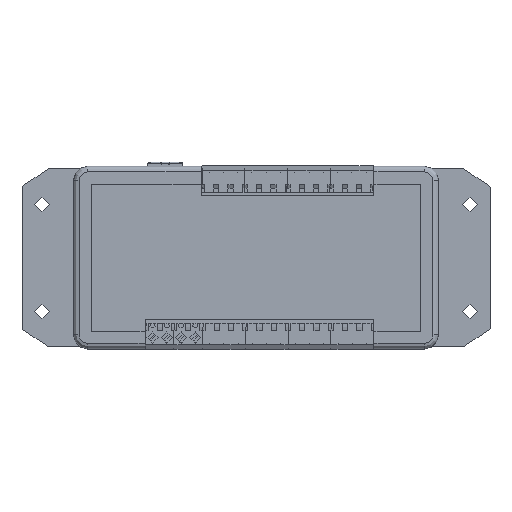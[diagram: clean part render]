
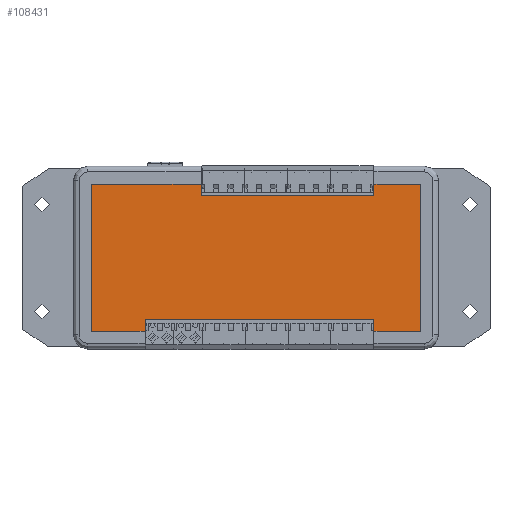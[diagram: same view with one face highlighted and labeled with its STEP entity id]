
A CAD part, top view. The second image highlights one B-rep face of the part: STEP entity #108431.
In plain terms, the highlighted planar face has unit normal (0, 0, 1) as drawn and (0, 0, -1) by its records, which use the part's own axes.
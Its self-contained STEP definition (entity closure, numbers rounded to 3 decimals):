
#525 = VERTEX_POINT ( 'NONE', #110606 ) ;
#2286 = CARTESIAN_POINT ( 'NONE',  ( 0., -22., 1. ) ) ;
#2564 = AXIS2_PLACEMENT_3D ( 'NONE', #78032, #97956, #38532 ) ;
#3573 = LINE ( 'NONE', #89883, #106139 ) ;
#4570 = VECTOR ( 'NONE', #13887, 1000. ) ;
#5338 = VERTEX_POINT ( 'NONE', #71800 ) ;
#8857 = VERTEX_POINT ( 'NONE', #38760 ) ;
#9164 = VERTEX_POINT ( 'NONE', #62509 ) ;
#11710 = ORIENTED_EDGE ( 'NONE', *, *, #88832, .T. ) ;
#12069 = VERTEX_POINT ( 'NONE', #102774 ) ;
#13540 = VERTEX_POINT ( 'NONE', #76278 ) ;
#13887 = DIRECTION ( 'NONE',  ( -1., 0., 0. ) ) ;
#17136 = VECTOR ( 'NONE', #29446, 1000. ) ;
#23528 = ORIENTED_EDGE ( 'NONE', *, *, #106310, .T. ) ;
#23560 = LINE ( 'NONE', #36191, #96599 ) ;
#24886 = EDGE_CURVE ( 'NONE', #5338, #36080, #107745, .T. ) ;
#25667 = CARTESIAN_POINT ( 'NONE',  ( -39.5, 22., 1. ) ) ;
#29446 = DIRECTION ( 'NONE',  ( 1., 0., 0. ) ) ;
#30875 = CARTESIAN_POINT ( 'NONE',  ( -39.5, 0., 1. ) ) ;
#31686 = CARTESIAN_POINT ( 'NONE',  ( 42., 26.125, 1. ) ) ;
#31915 = CARTESIAN_POINT ( 'NONE',  ( -58.625, 26.125, 1. ) ) ;
#32350 = CARTESIAN_POINT ( 'NONE',  ( -58.625, -26.125, 1. ) ) ;
#32694 = ORIENTED_EDGE ( 'NONE', *, *, #89645, .T. ) ;
#35889 = VECTOR ( 'NONE', #106956, 1000. ) ;
#36080 = VERTEX_POINT ( 'NONE', #115664 ) ;
#36168 = CARTESIAN_POINT ( 'NONE',  ( 58.625, 26.125, 1. ) ) ;
#36191 = CARTESIAN_POINT ( 'NONE',  ( 42., 0., 1. ) ) ;
#38532 = DIRECTION ( 'NONE',  ( 1., 0., 0. ) ) ;
#38760 = CARTESIAN_POINT ( 'NONE',  ( 42., 22., 1. ) ) ;
#39157 = EDGE_CURVE ( 'NONE', #119321, #8857, #90209, .T. ) ;
#40401 = DIRECTION ( 'NONE',  ( 0., 1., 0. ) ) ;
#40874 = DIRECTION ( 'NONE',  ( 0., -1., 0. ) ) ;
#41292 = CARTESIAN_POINT ( 'NONE',  ( -19.5, 0., 1. ) ) ;
#42666 = LINE ( 'NONE', #31915, #69120 ) ;
#46120 = VECTOR ( 'NONE', #40874, 1000. ) ;
#47745 = VERTEX_POINT ( 'NONE', #31686 ) ;
#47774 = CARTESIAN_POINT ( 'NONE',  ( -58.625, 26.125, 1. ) ) ;
#51313 = DIRECTION ( 'NONE',  ( 0., -1., 0. ) ) ;
#52323 = DIRECTION ( 'NONE',  ( 1., 0., 0. ) ) ;
#54626 = EDGE_CURVE ( 'NONE', #9164, #55684, #107166, .T. ) ;
#55641 = ORIENTED_EDGE ( 'NONE', *, *, #54626, .T. ) ;
#55662 = LINE ( 'NONE', #93509, #79004 ) ;
#55684 = VERTEX_POINT ( 'NONE', #32350 ) ;
#57344 = VECTOR ( 'NONE', #51313, 1000. ) ;
#57503 = CARTESIAN_POINT ( 'NONE',  ( -58.625, 26.125, 1. ) ) ;
#62509 = CARTESIAN_POINT ( 'NONE',  ( -19.5, -26.125, 1. ) ) ;
#63029 = ORIENTED_EDGE ( 'NONE', *, *, #122847, .T. ) ;
#64773 = LINE ( 'NONE', #2286, #114489 ) ;
#68145 = CARTESIAN_POINT ( 'NONE',  ( 42., -22., 1. ) ) ;
#69120 = VECTOR ( 'NONE', #111380, 1000. ) ;
#71800 = CARTESIAN_POINT ( 'NONE',  ( 58.625, 26.125, 1. ) ) ;
#73053 = EDGE_CURVE ( 'NONE', #8857, #47745, #23560, .T. ) ;
#76278 = CARTESIAN_POINT ( 'NONE',  ( -19.5, -22., 1. ) ) ;
#78032 = CARTESIAN_POINT ( 'NONE',  ( 0., 0., 1. ) ) ;
#78970 = CARTESIAN_POINT ( 'NONE',  ( 0., 22., 1. ) ) ;
#79004 = VECTOR ( 'NONE', #83564, 1000. ) ;
#81332 = VECTOR ( 'NONE', #95616, 1000. ) ;
#81554 = CARTESIAN_POINT ( 'NONE',  ( 42., 0., 1. ) ) ;
#81919 = EDGE_CURVE ( 'NONE', #126598, #525, #42666, .T. ) ;
#83400 = CARTESIAN_POINT ( 'NONE',  ( -58.625, -26.125, 1. ) ) ;
#83564 = DIRECTION ( 'NONE',  ( -1., 0., 0. ) ) ;
#83676 = LINE ( 'NONE', #41292, #57344 ) ;
#87446 = ORIENTED_EDGE ( 'NONE', *, *, #39157, .T. ) ;
#88005 = PLANE ( 'NONE',  #2564 ) ;
#88499 = ORIENTED_EDGE ( 'NONE', *, *, #104962, .T. ) ;
#88832 = EDGE_CURVE ( 'NONE', #36080, #12069, #55662, .T. ) ;
#89645 = EDGE_CURVE ( 'NONE', #55684, #126598, #3573, .T. ) ;
#89883 = CARTESIAN_POINT ( 'NONE',  ( -58.625, 26.125, 1. ) ) ;
#90209 = LINE ( 'NONE', #78970, #17136 ) ;
#92358 = VERTEX_POINT ( 'NONE', #68145 ) ;
#92593 = ORIENTED_EDGE ( 'NONE', *, *, #119536, .T. ) ;
#93509 = CARTESIAN_POINT ( 'NONE',  ( -58.625, -26.125, 1. ) ) ;
#95616 = DIRECTION ( 'NONE',  ( 0., -1., 0. ) ) ;
#96599 = VECTOR ( 'NONE', #116092, 1000. ) ;
#96685 = VECTOR ( 'NONE', #111510, 1000. ) ;
#97956 = DIRECTION ( 'NONE',  ( 0., 0., 1. ) ) ;
#97992 = ORIENTED_EDGE ( 'NONE', *, *, #81919, .T. ) ;
#98937 = LINE ( 'NONE', #30875, #46120 ) ;
#99800 = ORIENTED_EDGE ( 'NONE', *, *, #122551, .F. ) ;
#99811 = LINE ( 'NONE', #81554, #96685 ) ;
#100289 = ORIENTED_EDGE ( 'NONE', *, *, #24886, .T. ) ;
#102005 = EDGE_LOOP ( 'NONE', ( #99800, #92593, #55641, #32694, #97992, #63029, #87446, #124191, #23528, #100289, #11710, #88499 ) ) ;
#102774 = CARTESIAN_POINT ( 'NONE',  ( 42., -26.125, 1. ) ) ;
#104962 = EDGE_CURVE ( 'NONE', #12069, #92358, #99811, .T. ) ;
#106139 = VECTOR ( 'NONE', #40401, 1000. ) ;
#106310 = EDGE_CURVE ( 'NONE', #47745, #5338, #115127, .T. ) ;
#106956 = DIRECTION ( 'NONE',  ( 1., 0., 0. ) ) ;
#107166 = LINE ( 'NONE', #83400, #4570 ) ;
#107745 = LINE ( 'NONE', #36168, #81332 ) ;
#108431 = ADVANCED_FACE ( 'NONE', ( #116413 ), #88005, .F. ) ;
#110606 = CARTESIAN_POINT ( 'NONE',  ( -39.5, 26.125, 1. ) ) ;
#111380 = DIRECTION ( 'NONE',  ( 1., 0., 0. ) ) ;
#111510 = DIRECTION ( 'NONE',  ( 0., 1., 0. ) ) ;
#114489 = VECTOR ( 'NONE', #52323, 1000. ) ;
#115127 = LINE ( 'NONE', #57503, #35889 ) ;
#115664 = CARTESIAN_POINT ( 'NONE',  ( 58.625, -26.125, 1. ) ) ;
#116092 = DIRECTION ( 'NONE',  ( 0., 1., 0. ) ) ;
#116413 = FACE_OUTER_BOUND ( 'NONE', #102005, .T. ) ;
#119321 = VERTEX_POINT ( 'NONE', #25667 ) ;
#119536 = EDGE_CURVE ( 'NONE', #13540, #9164, #83676, .T. ) ;
#122551 = EDGE_CURVE ( 'NONE', #13540, #92358, #64773, .T. ) ;
#122847 = EDGE_CURVE ( 'NONE', #525, #119321, #98937, .T. ) ;
#124191 = ORIENTED_EDGE ( 'NONE', *, *, #73053, .T. ) ;
#126598 = VERTEX_POINT ( 'NONE', #47774 ) ;
